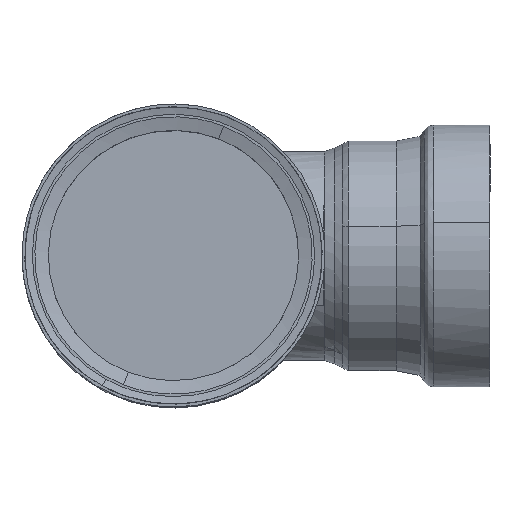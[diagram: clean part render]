
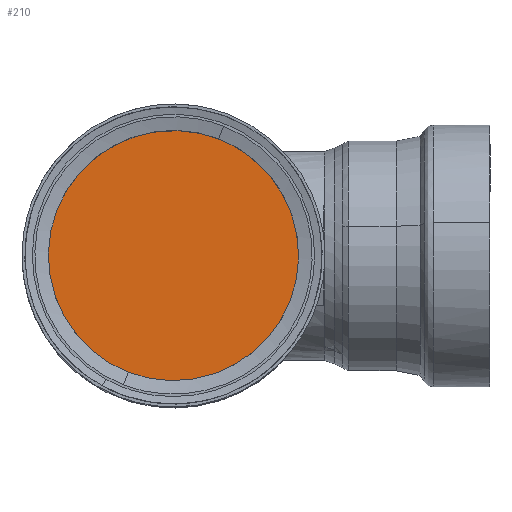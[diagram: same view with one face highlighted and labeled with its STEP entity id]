
A CAD part, top view. The second image highlights one B-rep face of the part: STEP entity #210.
In plain terms, the highlighted free-form (B-spline) face has degree [1, 1] with [2, 2] control points.
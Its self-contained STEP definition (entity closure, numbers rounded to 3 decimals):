
#210=ADVANCED_FACE('',(#441),#442,.T.);
#441=FACE_OUTER_BOUND('',#1494,.T.);
#442=B_SPLINE_SURFACE_WITH_KNOTS('',1,1,((#1495,#1496),(#1497,#1498)),.UNSPECIFIED.,.F.,.F.,.F.,(2,2),(2,2),(0.0,76.0),(0.0,76.0),.UNSPECIFIED.);
#1494=EDGE_LOOP('',(#2173,#2174,#2175));
#1495=CARTESIAN_POINT('',(-38.,-38.,42.75));
#1496=CARTESIAN_POINT('',(-38.,38.,42.75));
#1497=CARTESIAN_POINT('',(38.0,-38.,42.75));
#1498=CARTESIAN_POINT('',(38.0,38.,42.75));
#2173=ORIENTED_EDGE('',*,*,#2639,.T.);
#2174=ORIENTED_EDGE('',*,*,#2537,.T.);
#2175=ORIENTED_EDGE('',*,*,#2640,.T.);
#2537=EDGE_CURVE('',#2923,#2927,#2929,.T.);
#2639=EDGE_CURVE('',#3073,#2923,#3074,.T.);
#2640=EDGE_CURVE('',#2927,#3073,#3075,.T.);
#2923=VERTEX_POINT('',#4022);
#2927=VERTEX_POINT('',#4027);
#2929=(B_SPLINE_CURVE(2,(#4031,#4032,#4033,#4034,#4035),.UNSPECIFIED.,.F.,.F.)B_SPLINE_CURVE_WITH_KNOTS((3,2,3),(-1.571,0.,1.571),.UNSPECIFIED.)RATIONAL_B_SPLINE_CURVE((1.0,0.707,1.0,0.707,1.0))BOUNDED_CURVE()REPRESENTATION_ITEM('')GEOMETRIC_REPRESENTATION_ITEM()CURVE());
#3073=VERTEX_POINT('',#4695);
#3074=(B_SPLINE_CURVE(2,(#4697,#4698,#4699),.UNSPECIFIED.,.F.,.F.)B_SPLINE_CURVE_WITH_KNOTS((3,3),(-3.142,-1.571),.UNSPECIFIED.)RATIONAL_B_SPLINE_CURVE((1.0,0.707,1.0))BOUNDED_CURVE()REPRESENTATION_ITEM('')GEOMETRIC_REPRESENTATION_ITEM()CURVE());
#3075=(B_SPLINE_CURVE(2,(#4707,#4708,#4709),.UNSPECIFIED.,.F.,.F.)B_SPLINE_CURVE_WITH_KNOTS((3,3),(1.571,3.142),.UNSPECIFIED.)RATIONAL_B_SPLINE_CURVE((1.0,0.707,1.0))BOUNDED_CURVE()REPRESENTATION_ITEM('')GEOMETRIC_REPRESENTATION_ITEM()CURVE());
#4022=CARTESIAN_POINT('',(-13.697,-35.446,42.75));
#4027=CARTESIAN_POINT('',(13.697,35.446,42.75));
#4031=CARTESIAN_POINT('',(-13.697,-35.446,42.75));
#4032=CARTESIAN_POINT('',(21.749,-49.142,42.75));
#4033=CARTESIAN_POINT('',(35.446,-13.697,42.75));
#4034=CARTESIAN_POINT('',(49.142,21.749,42.75));
#4035=CARTESIAN_POINT('',(13.697,35.446,42.75));
#4695=CARTESIAN_POINT('',(-35.446,13.697,42.75));
#4697=CARTESIAN_POINT('',(-35.446,13.697,42.75));
#4698=CARTESIAN_POINT('',(-49.142,-21.749,42.75));
#4699=CARTESIAN_POINT('',(-13.697,-35.446,42.75));
#4707=CARTESIAN_POINT('',(13.697,35.446,42.75));
#4708=CARTESIAN_POINT('',(-21.749,49.142,42.75));
#4709=CARTESIAN_POINT('',(-35.446,13.697,42.75));
